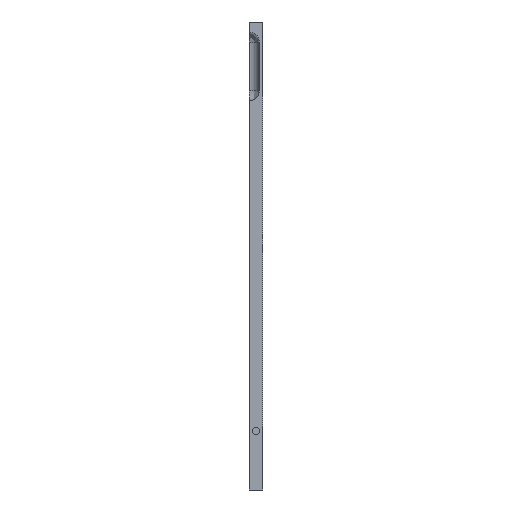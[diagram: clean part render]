
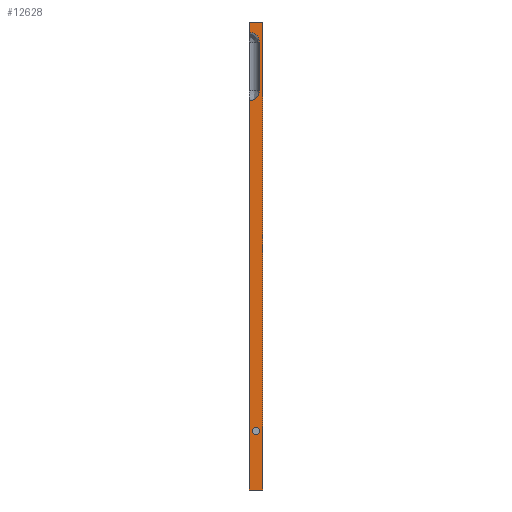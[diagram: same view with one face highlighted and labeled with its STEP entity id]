
A CAD part, left-side view. The second image highlights one B-rep face of the part: STEP entity #12628.
In plain terms, the highlighted planar face has unit normal (-1, 0, 0).
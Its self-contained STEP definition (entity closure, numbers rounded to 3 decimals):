
#112 = ORIENTED_EDGE ( 'NONE', *, *, #18487, .T. ) ;
#177 = LINE ( 'NONE', #17643, #2211 ) ;
#179 = CARTESIAN_POINT ( 'NONE',  ( -36.381, -428.762, 128.614 ) ) ;
#712 = VERTEX_POINT ( 'NONE', #9090 ) ;
#749 = DIRECTION ( 'NONE',  ( 0., 0., -1. ) ) ;
#1558 = CARTESIAN_POINT ( 'NONE',  ( -36.381, -428.543, 128.288 ) ) ;
#2057 = CARTESIAN_POINT ( 'NONE',  ( -36.381, -429.16, 130.12 ) ) ;
#2211 = VECTOR ( 'NONE', #19636, 1000. ) ;
#2236 = DIRECTION ( 'NONE',  ( 0., 0., -1. ) ) ;
#2496 = LINE ( 'NONE', #19010, #18449 ) ;
#2723 = DIRECTION ( 'NONE',  ( 1., 0., 0. ) ) ;
#2926 = CIRCLE ( 'NONE', #10643, 3. ) ;
#3406 = ORIENTED_EDGE ( 'NONE', *, *, #15089, .F. ) ;
#3463 = CARTESIAN_POINT ( 'NONE',  ( -36.381, -429.16, 150.12 ) ) ;
#3919 = EDGE_LOOP ( 'NONE', ( #20537, #19240, #112, #4414, #5134, #16457, #14144, #3406 ) ) ;
#4078 = ORIENTED_EDGE ( 'NONE', *, *, #19723, .T. ) ;
#4215 = CARTESIAN_POINT ( 'NONE',  ( -36.381, -430.16, 13.781 ) ) ;
#4283 = CARTESIAN_POINT ( 'NONE',  ( -36.381, -426.16, 144.12 ) ) ;
#4414 = ORIENTED_EDGE ( 'NONE', *, *, #5732, .T. ) ;
#4773 = EDGE_LOOP ( 'NONE', ( #4078 ) ) ;
#5112 = VERTEX_POINT ( 'NONE', #2057 ) ;
#5134 = ORIENTED_EDGE ( 'NONE', *, *, #15232, .T. ) ;
#5674 = DIRECTION ( 'NONE',  ( 1., 0., 0. ) ) ;
#5732 = EDGE_CURVE ( 'NONE', #11779, #5112, #19280, .T. ) ;
#5867 = VERTEX_POINT ( 'NONE', #15341 ) ;
#6245 = VERTEX_POINT ( 'NONE', #4215 ) ;
#6627 = EDGE_CURVE ( 'NONE', #16504, #6245, #177, .T. ) ;
#6729 = CARTESIAN_POINT ( 'NONE',  ( -36.381, -426.16, 147.12 ) ) ;
#7943 = CARTESIAN_POINT ( 'NONE',  ( -36.381, -427.669, 127.498 ) ) ;
#8112 = LINE ( 'NONE', #16442, #17415 ) ;
#8308 = PLANE ( 'NONE',  #20305 ) ;
#9090 = CARTESIAN_POINT ( 'NONE',  ( -36.381, -426.16, 127.12 ) ) ;
#9411 = DIRECTION ( 'NONE',  ( 0., 1., 0. ) ) ;
#9497 = CARTESIAN_POINT ( 'NONE',  ( -36.381, -428.16, 29.93 ) ) ;
#9636 = CARTESIAN_POINT ( 'NONE',  ( -36.381, -426.939, 127.216 ) ) ;
#9891 = CARTESIAN_POINT ( 'NONE',  ( -36.381, -429.16, 144.12 ) ) ;
#9929 = CARTESIAN_POINT ( 'NONE',  ( -36.381, -429.16, 130.12 ) ) ;
#9986 = CIRCLE ( 'NONE', #16380, 1.05 ) ;
#10445 = B_SPLINE_CURVE_WITH_KNOTS ( 'NONE', 3,
 ( #9929, #14798, #14592, #16268, #179, #1558, #19542, #19341, #7943, #12824, #9636, #20799, #19637, #14386 ),
 .UNSPECIFIED., .F., .F.,
 ( 4, 2, 2, 2, 2, 2, 4 ),
 ( 0., 0.001, 0.002, 0.002, 0.004, 0.004, 0.005 ),
 .UNSPECIFIED. ) ;
#10643 = AXIS2_PLACEMENT_3D ( 'NONE', #4283, #2723, #12295 ) ;
#11779 = VERTEX_POINT ( 'NONE', #9891 ) ;
#12295 = DIRECTION ( 'NONE',  ( 0., 0., -1. ) ) ;
#12477 = CARTESIAN_POINT ( 'NONE',  ( -36.381, -426.16, 150.12 ) ) ;
#12628 = ADVANCED_FACE ( 'NONE', ( #13096, #14949 ), #8308, .T. ) ;
#12824 = CARTESIAN_POINT ( 'NONE',  ( -36.381, -427.128, 127.274 ) ) ;
#12929 = EDGE_CURVE ( 'NONE', #14031, #15709, #17331, .T. ) ;
#13096 = FACE_BOUND ( 'NONE', #4773, .T. ) ;
#13598 = LINE ( 'NONE', #16627, #18410 ) ;
#14031 = VERTEX_POINT ( 'NONE', #12477 ) ;
#14144 = ORIENTED_EDGE ( 'NONE', *, *, #6627, .T. ) ;
#14299 = CARTESIAN_POINT ( 'NONE',  ( -36.381, -426.16, 150.12 ) ) ;
#14386 = CARTESIAN_POINT ( 'NONE',  ( -36.381, -426.16, 127.12 ) ) ;
#14592 = CARTESIAN_POINT ( 'NONE',  ( -36.381, -429.081, 129.333 ) ) ;
#14795 = EDGE_CURVE ( 'NONE', #5867, #14031, #2496, .T. ) ;
#14798 = CARTESIAN_POINT ( 'NONE',  ( -36.381, -429.16, 129.724 ) ) ;
#14835 = DIRECTION ( 'NONE',  ( 0., 0., -1. ) ) ;
#14949 = FACE_OUTER_BOUND ( 'NONE', #3919, .T. ) ;
#15089 = EDGE_CURVE ( 'NONE', #5867, #6245, #13598, .T. ) ;
#15232 = EDGE_CURVE ( 'NONE', #5112, #712, #10445, .T. ) ;
#15254 = CARTESIAN_POINT ( 'NONE',  ( -36.381, -428.16, 30.98 ) ) ;
#15257 = DIRECTION ( 'NONE',  ( 0., 0., 1. ) ) ;
#15341 = CARTESIAN_POINT ( 'NONE',  ( -36.381, -430.16, 150.12 ) ) ;
#15574 = VECTOR ( 'NONE', #14835, 1000. ) ;
#15616 = VERTEX_POINT ( 'NONE', #9497 ) ;
#15709 = VERTEX_POINT ( 'NONE', #6729 ) ;
#15919 = CARTESIAN_POINT ( 'NONE',  ( -36.381, -426.16, 13.781 ) ) ;
#15981 = VECTOR ( 'NONE', #20695, 1000. ) ;
#16268 = CARTESIAN_POINT ( 'NONE',  ( -36.381, -428.855, 128.787 ) ) ;
#16380 = AXIS2_PLACEMENT_3D ( 'NONE', #15254, #5674, #749 ) ;
#16442 = CARTESIAN_POINT ( 'NONE',  ( -36.381, -426.16, 150.12 ) ) ;
#16457 = ORIENTED_EDGE ( 'NONE', *, *, #18936, .T. ) ;
#16504 = VERTEX_POINT ( 'NONE', #15919 ) ;
#16627 = CARTESIAN_POINT ( 'NONE',  ( -36.381, -430.16, 13.781 ) ) ;
#17331 = LINE ( 'NONE', #14299, #15981 ) ;
#17415 = VECTOR ( 'NONE', #18124, 1000. ) ;
#17643 = CARTESIAN_POINT ( 'NONE',  ( -36.381, -430.16, 13.781 ) ) ;
#18124 = DIRECTION ( 'NONE',  ( 0., 0., -1. ) ) ;
#18410 = VECTOR ( 'NONE', #2236, 1000. ) ;
#18449 = VECTOR ( 'NONE', #9411, 1000. ) ;
#18487 = EDGE_CURVE ( 'NONE', #15709, #11779, #2926, .T. ) ;
#18936 = EDGE_CURVE ( 'NONE', #712, #16504, #8112, .T. ) ;
#19010 = CARTESIAN_POINT ( 'NONE',  ( -36.381, -430.16, 150.12 ) ) ;
#19240 = ORIENTED_EDGE ( 'NONE', *, *, #12929, .T. ) ;
#19280 = LINE ( 'NONE', #3463, #15574 ) ;
#19341 = CARTESIAN_POINT ( 'NONE',  ( -36.381, -428.003, 127.721 ) ) ;
#19542 = CARTESIAN_POINT ( 'NONE',  ( -36.381, -428.417, 128.135 ) ) ;
#19636 = DIRECTION ( 'NONE',  ( 0., -1., 0. ) ) ;
#19637 = CARTESIAN_POINT ( 'NONE',  ( -36.381, -426.357, 127.12 ) ) ;
#19723 = EDGE_CURVE ( 'NONE', #15616, #15616, #9986, .T. ) ;
#19994 = CARTESIAN_POINT ( 'NONE',  ( -36.381, -430.16, 150.12 ) ) ;
#20305 = AXIS2_PLACEMENT_3D ( 'NONE', #19994, #20409, #15257 ) ;
#20409 = DIRECTION ( 'NONE',  ( -1., 0., 0. ) ) ;
#20537 = ORIENTED_EDGE ( 'NONE', *, *, #14795, .T. ) ;
#20695 = DIRECTION ( 'NONE',  ( 0., 0., -1. ) ) ;
#20799 = CARTESIAN_POINT ( 'NONE',  ( -36.381, -426.553, 127.139 ) ) ;
